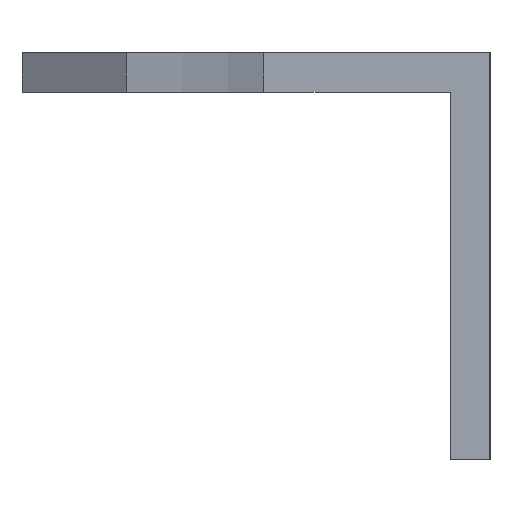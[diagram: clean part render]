
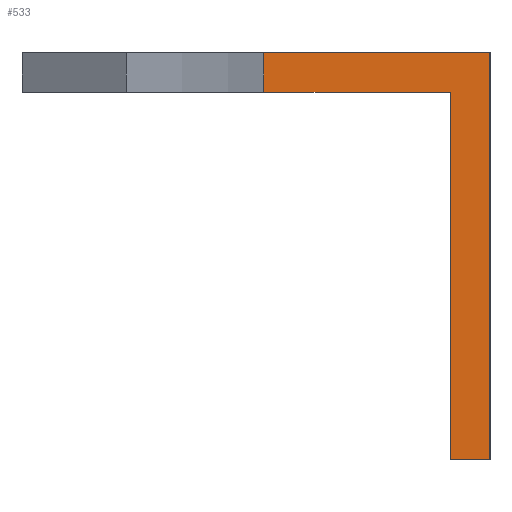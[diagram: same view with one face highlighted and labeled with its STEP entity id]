
A CAD part, left-side view. The second image highlights one B-rep face of the part: STEP entity #533.
In plain terms, the highlighted planar face has unit normal (-1, 0, 0).
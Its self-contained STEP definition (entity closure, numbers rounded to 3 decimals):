
#32 = PLANE('',#33);
#33 = AXIS2_PLACEMENT_3D('',#34,#35,#36);
#34 = CARTESIAN_POINT('',(0.,0.,195.));
#35 = DIRECTION('',(0.,0.,1.));
#36 = DIRECTION('',(1.,0.,-0.));
#169 = VERTEX_POINT('',#170);
#170 = CARTESIAN_POINT('',(-22.,-87.,195.));
#184 = PLANE('',#185);
#185 = AXIS2_PLACEMENT_3D('',#186,#187,#188);
#186 = CARTESIAN_POINT('',(-22.,-87.,167.01));
#187 = DIRECTION('',(-0.,1.,0.));
#188 = DIRECTION('',(0.,0.,1.));
#195 = EDGE_CURVE('',#169,#196,#198,.T.);
#196 = VERTEX_POINT('',#197);
#197 = CARTESIAN_POINT('',(-22.,-72.746,195.));
#198 = SURFACE_CURVE('',#199,(#203,#210),.PCURVE_S1.);
#199 = LINE('',#200,#201);
#200 = CARTESIAN_POINT('',(-22.,-90.,195.));
#201 = VECTOR('',#202,1.);
#202 = DIRECTION('',(-0.,1.,0.));
#203 = PCURVE('',#32,#204);
#204 = DEFINITIONAL_REPRESENTATION('',(#205),#209);
#205 = LINE('',#206,#207);
#206 = CARTESIAN_POINT('',(-22.,-90.));
#207 = VECTOR('',#208,1.);
#208 = DIRECTION('',(-0.,1.));
#209 = ( GEOMETRIC_REPRESENTATION_CONTEXT(2) 
PARAMETRIC_REPRESENTATION_CONTEXT() REPRESENTATION_CONTEXT('2D SPACE',''
  ) );
#210 = PCURVE('',#211,#216);
#211 = PLANE('',#212);
#212 = AXIS2_PLACEMENT_3D('',#213,#214,#215);
#213 = CARTESIAN_POINT('',(-22.,-90.,195.));
#214 = DIRECTION('',(1.,0.,-0.));
#215 = DIRECTION('',(0.,0.,1.));
#216 = DEFINITIONAL_REPRESENTATION('',(#217),#221);
#217 = LINE('',#218,#219);
#218 = CARTESIAN_POINT('',(0.,0.));
#219 = VECTOR('',#220,1.);
#220 = DIRECTION('',(0.,-1.));
#221 = ( GEOMETRIC_REPRESENTATION_CONTEXT(2) 
PARAMETRIC_REPRESENTATION_CONTEXT() REPRESENTATION_CONTEXT('2D SPACE',''
  ) );
#238 = CYLINDRICAL_SURFACE('',#239,76.);
#239 = AXIS2_PLACEMENT_3D('',#240,#241,#242);
#240 = CARTESIAN_POINT('',(0.,0.,195.));
#241 = DIRECTION('',(0.,0.,1.));
#242 = DIRECTION('',(1.,0.,-0.));
#360 = PLANE('',#361);
#361 = AXIS2_PLACEMENT_3D('',#362,#363,#364);
#362 = CARTESIAN_POINT('',(0.,0.,198.));
#363 = DIRECTION('',(0.,0.,1.));
#364 = DIRECTION('',(1.,0.,-0.));
#444 = EDGE_CURVE('',#196,#445,#447,.T.);
#445 = VERTEX_POINT('',#446);
#446 = CARTESIAN_POINT('',(-22.,-72.746,198.));
#447 = SURFACE_CURVE('',#448,(#452,#458),.PCURVE_S1.);
#448 = LINE('',#449,#450);
#449 = CARTESIAN_POINT('',(-22.,-72.746,195.));
#450 = VECTOR('',#451,1.);
#451 = DIRECTION('',(0.,0.,1.));
#452 = PCURVE('',#238,#453);
#453 = DEFINITIONAL_REPRESENTATION('',(#454),#457);
#454 = B_SPLINE_CURVE_WITH_KNOTS('',1,(#455,#456),.UNSPECIFIED.,.F.,.F.,
  (2,2),(0.,3.),.PIECEWISE_BEZIER_KNOTS.);
#455 = CARTESIAN_POINT('',(4.419,0.));
#456 = CARTESIAN_POINT('',(4.419,3.));
#457 = ( GEOMETRIC_REPRESENTATION_CONTEXT(2) 
PARAMETRIC_REPRESENTATION_CONTEXT() REPRESENTATION_CONTEXT('2D SPACE',''
  ) );
#458 = PCURVE('',#211,#459);
#459 = DEFINITIONAL_REPRESENTATION('',(#460),#464);
#460 = LINE('',#461,#462);
#461 = CARTESIAN_POINT('',(0.,-17.254));
#462 = VECTOR('',#463,1.);
#463 = DIRECTION('',(1.,0.));
#464 = ( GEOMETRIC_REPRESENTATION_CONTEXT(2) 
PARAMETRIC_REPRESENTATION_CONTEXT() REPRESENTATION_CONTEXT('2D SPACE',''
  ) );
#533 = ADVANCED_FACE('',(#534),#211,.F.);
#534 = FACE_BOUND('',#535,.F.);
#535 = EDGE_LOOP('',(#536,#566,#594,#615,#616,#617));
#536 = ORIENTED_EDGE('',*,*,#537,.F.);
#537 = EDGE_CURVE('',#538,#540,#542,.T.);
#538 = VERTEX_POINT('',#539);
#539 = CARTESIAN_POINT('',(-22.,-90.,167.01));
#540 = VERTEX_POINT('',#541);
#541 = CARTESIAN_POINT('',(-22.,-90.,198.));
#542 = SURFACE_CURVE('',#543,(#547,#554),.PCURVE_S1.);
#543 = LINE('',#544,#545);
#544 = CARTESIAN_POINT('',(-22.,-90.,167.01));
#545 = VECTOR('',#546,1.);
#546 = DIRECTION('',(0.,0.,1.));
#547 = PCURVE('',#211,#548);
#548 = DEFINITIONAL_REPRESENTATION('',(#549),#553);
#549 = LINE('',#550,#551);
#550 = CARTESIAN_POINT('',(-27.99,0.));
#551 = VECTOR('',#552,1.);
#552 = DIRECTION('',(1.,0.));
#553 = ( GEOMETRIC_REPRESENTATION_CONTEXT(2) 
PARAMETRIC_REPRESENTATION_CONTEXT() REPRESENTATION_CONTEXT('2D SPACE',''
  ) );
#554 = PCURVE('',#555,#560);
#555 = PLANE('',#556);
#556 = AXIS2_PLACEMENT_3D('',#557,#558,#559);
#557 = CARTESIAN_POINT('',(-22.,-90.,195.));
#558 = DIRECTION('',(-0.,1.,0.));
#559 = DIRECTION('',(0.,0.,1.));
#560 = DEFINITIONAL_REPRESENTATION('',(#561),#565);
#561 = LINE('',#562,#563);
#562 = CARTESIAN_POINT('',(-27.99,0.));
#563 = VECTOR('',#564,1.);
#564 = DIRECTION('',(1.,0.));
#565 = ( GEOMETRIC_REPRESENTATION_CONTEXT(2) 
PARAMETRIC_REPRESENTATION_CONTEXT() REPRESENTATION_CONTEXT('2D SPACE',''
  ) );
#566 = ORIENTED_EDGE('',*,*,#567,.T.);
#567 = EDGE_CURVE('',#538,#568,#570,.T.);
#568 = VERTEX_POINT('',#569);
#569 = CARTESIAN_POINT('',(-22.,-87.,167.01));
#570 = SURFACE_CURVE('',#571,(#575,#582),.PCURVE_S1.);
#571 = LINE('',#572,#573);
#572 = CARTESIAN_POINT('',(-22.,-90.,167.01));
#573 = VECTOR('',#574,1.);
#574 = DIRECTION('',(-0.,1.,0.));
#575 = PCURVE('',#211,#576);
#576 = DEFINITIONAL_REPRESENTATION('',(#577),#581);
#577 = LINE('',#578,#579);
#578 = CARTESIAN_POINT('',(-27.99,0.));
#579 = VECTOR('',#580,1.);
#580 = DIRECTION('',(0.,-1.));
#581 = ( GEOMETRIC_REPRESENTATION_CONTEXT(2) 
PARAMETRIC_REPRESENTATION_CONTEXT() REPRESENTATION_CONTEXT('2D SPACE',''
  ) );
#582 = PCURVE('',#583,#588);
#583 = PLANE('',#584);
#584 = AXIS2_PLACEMENT_3D('',#585,#586,#587);
#585 = CARTESIAN_POINT('',(-22.,-90.,167.01));
#586 = DIRECTION('',(0.,0.,1.));
#587 = DIRECTION('',(1.,0.,-0.));
#588 = DEFINITIONAL_REPRESENTATION('',(#589),#593);
#589 = LINE('',#590,#591);
#590 = CARTESIAN_POINT('',(0.,0.));
#591 = VECTOR('',#592,1.);
#592 = DIRECTION('',(0.,1.));
#593 = ( GEOMETRIC_REPRESENTATION_CONTEXT(2) 
PARAMETRIC_REPRESENTATION_CONTEXT() REPRESENTATION_CONTEXT('2D SPACE',''
  ) );
#594 = ORIENTED_EDGE('',*,*,#595,.T.);
#595 = EDGE_CURVE('',#568,#169,#596,.T.);
#596 = SURFACE_CURVE('',#597,(#601,#608),.PCURVE_S1.);
#597 = LINE('',#598,#599);
#598 = CARTESIAN_POINT('',(-22.,-87.,167.01));
#599 = VECTOR('',#600,1.);
#600 = DIRECTION('',(0.,0.,1.));
#601 = PCURVE('',#211,#602);
#602 = DEFINITIONAL_REPRESENTATION('',(#603),#607);
#603 = LINE('',#604,#605);
#604 = CARTESIAN_POINT('',(-27.99,-3.));
#605 = VECTOR('',#606,1.);
#606 = DIRECTION('',(1.,0.));
#607 = ( GEOMETRIC_REPRESENTATION_CONTEXT(2) 
PARAMETRIC_REPRESENTATION_CONTEXT() REPRESENTATION_CONTEXT('2D SPACE',''
  ) );
#608 = PCURVE('',#184,#609);
#609 = DEFINITIONAL_REPRESENTATION('',(#610),#614);
#610 = LINE('',#611,#612);
#611 = CARTESIAN_POINT('',(0.,0.));
#612 = VECTOR('',#613,1.);
#613 = DIRECTION('',(1.,0.));
#614 = ( GEOMETRIC_REPRESENTATION_CONTEXT(2) 
PARAMETRIC_REPRESENTATION_CONTEXT() REPRESENTATION_CONTEXT('2D SPACE',''
  ) );
#615 = ORIENTED_EDGE('',*,*,#195,.T.);
#616 = ORIENTED_EDGE('',*,*,#444,.T.);
#617 = ORIENTED_EDGE('',*,*,#618,.F.);
#618 = EDGE_CURVE('',#540,#445,#619,.T.);
#619 = SURFACE_CURVE('',#620,(#624,#631),.PCURVE_S1.);
#620 = LINE('',#621,#622);
#621 = CARTESIAN_POINT('',(-22.,-90.,198.));
#622 = VECTOR('',#623,1.);
#623 = DIRECTION('',(-0.,1.,0.));
#624 = PCURVE('',#211,#625);
#625 = DEFINITIONAL_REPRESENTATION('',(#626),#630);
#626 = LINE('',#627,#628);
#627 = CARTESIAN_POINT('',(3.,0.));
#628 = VECTOR('',#629,1.);
#629 = DIRECTION('',(0.,-1.));
#630 = ( GEOMETRIC_REPRESENTATION_CONTEXT(2) 
PARAMETRIC_REPRESENTATION_CONTEXT() REPRESENTATION_CONTEXT('2D SPACE',''
  ) );
#631 = PCURVE('',#360,#632);
#632 = DEFINITIONAL_REPRESENTATION('',(#633),#637);
#633 = LINE('',#634,#635);
#634 = CARTESIAN_POINT('',(-22.,-90.));
#635 = VECTOR('',#636,1.);
#636 = DIRECTION('',(0.,1.));
#637 = ( GEOMETRIC_REPRESENTATION_CONTEXT(2) 
PARAMETRIC_REPRESENTATION_CONTEXT() REPRESENTATION_CONTEXT('2D SPACE',''
  ) );
